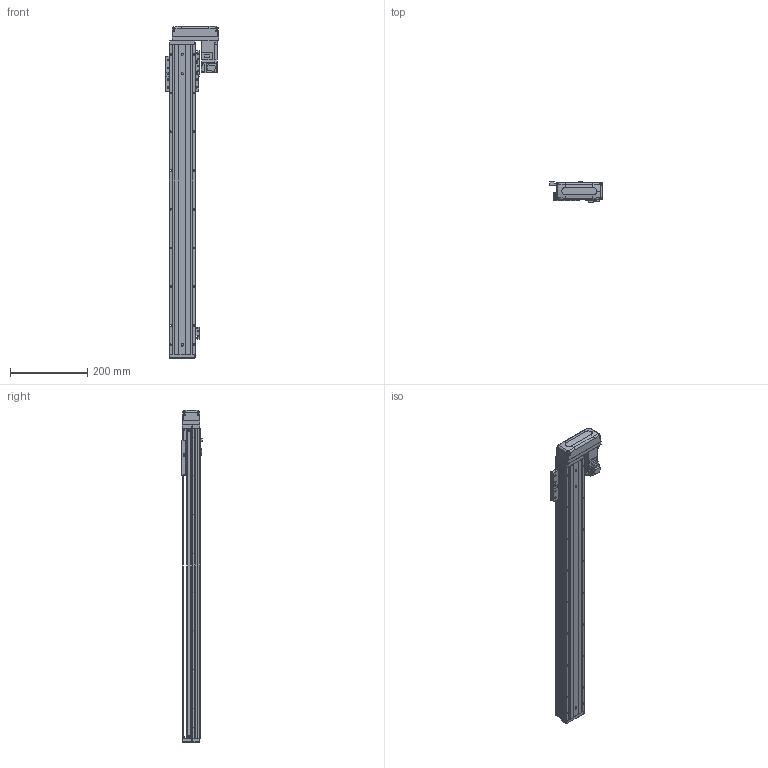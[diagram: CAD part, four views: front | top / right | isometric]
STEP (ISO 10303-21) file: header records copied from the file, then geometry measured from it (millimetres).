
FILE_DESCRIPTION (( 'STEP AP203' ), '1' );
FILE_NAME ('KTHAL60-650-BL-M10-C4L.step', '2022-03-19T08:38:54', ( '微软用户' ), ( '微软中国' ), 'SwSTEP 2.0', 'SolidWorks 2020', '' );
FILE_SCHEMA (( 'CONFIG_CONTROL_DESIGN' ));
Length unit declared in the file: millimetre
Products named in the file (18): CTHA60-015-2_CTHA60-015-2; KTHLA60-002; CTHA60-021; CTHA60-033; KTHA60-004; GBT 70.1-M4×16; GBT 70.1-M3×15; KTHA60-005; GBT77-2000M3-3; KTHAL60-650-BL-M10-C4L; GB¨uT 70.2-M3¡Á5_M3¡Á6; GBT 70.1-M3℅6; GBT 70.3-M3℅6; CTHA60-016; EE_SX911P_R; HG-KR13（三菱）; KTHA60-001_800; CTHA60-017
Assembly tree (51 placements, depth 2):
  KTHAL60-650-BL-M10-C4L
    KTHA60-001_800
    KTHLA60-002
    KTHA60-004
    KTHA60-005
    GB¨uT 70.2-M3¡Á5_M3¡Á6  x5
    GBT 70.3-M3℅6  x4
    EE_SX911P_R  x3
    CTHA60-017  x3
    CTHA60-021  x2
    GBT 70.1-M4×16  x10
    GBT77-2000M3-3  x6
    GBT 70.1-M3℅6  x6
    CTHA60-016
    HG-KR13（三菱）
    CTHA60-015-2_CTHA60-015-2
    CTHA60-033
    GBT 70.1-M3×15  x4
Bounding box: 137 x 53.3 x 857 mm (x, y, z)
Volume: 1779933.2 mm3; surface area: 440205 mm2
Topology: 54 solids, 54 shells, 2335 faces, 5555 edges, 3413 vertices
Faces by surface type: plane 1336, cylinder 571, cone 290, torus 98, bspline 26, sphere 14
Entity records: 41285 total; most frequent: CARTESIAN_POINT 7784, DIRECTION 6463, ORIENTED_EDGE 6254, EDGE_CURVE 3127, AXIS2_PLACEMENT_3D 2159, VECTOR 2145, LINE 2145, VERTEX_POINT 1962
